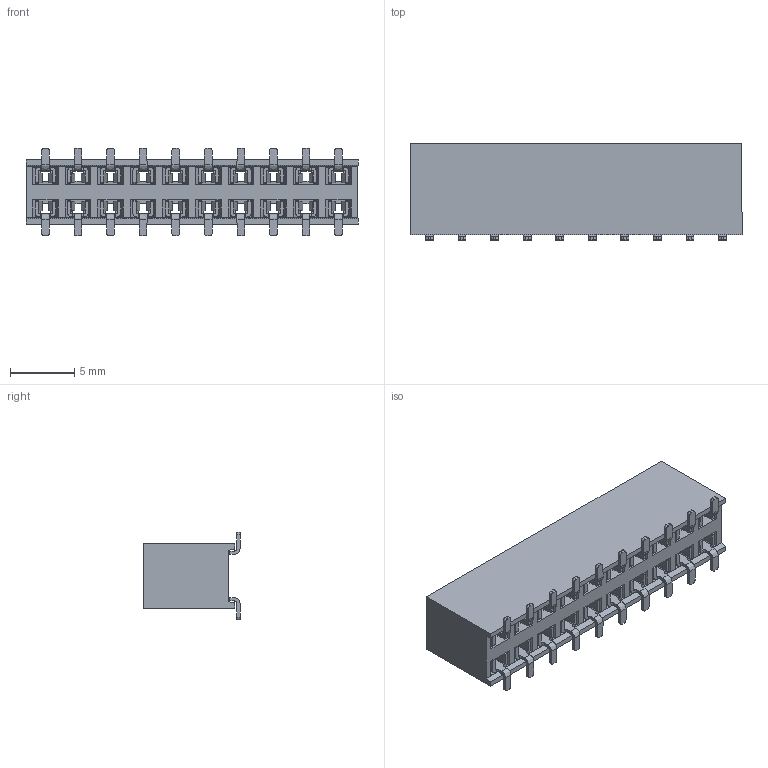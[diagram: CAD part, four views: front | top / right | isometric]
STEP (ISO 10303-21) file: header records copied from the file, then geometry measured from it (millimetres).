
FILE_DESCRIPTION (( 'STEP AP203' ), '1' );
FILE_NAME ('_ _ _C102KFMS-RC.STEP', '2016-08-04T07:49:17', ( 'LUANN HERRING' ), ( 'SULLINS' ), 'SwSTEP 2.0', 'SolidWorks 2015', '' );
FILE_SCHEMA (( 'CONFIG_CONTROL_DESIGN' ));
Products named in the file (2): _ _ _C102KFMS-RC
Bounding box: 25.9 x 7.5 x 6.85 mm (x, y, z)
Volume: 671.1 mm3; surface area: 2232.6 mm2
Topology: 21 solids, 21 shells, 2050 faces, 5804 edges, 3816 vertices
Faces by surface type: plane 1210, bspline 840
Entity records: 80825 total; most frequent: CARTESIAN_POINT 35312, ORIENTED_EDGE 11608, EDGE_CURVE 5804, DIRECTION 5588, VERTEX_POINT 3816, LINE 3164, VECTOR 3164, B_SPLINE_CURVE_WITH_KNOTS 2640
